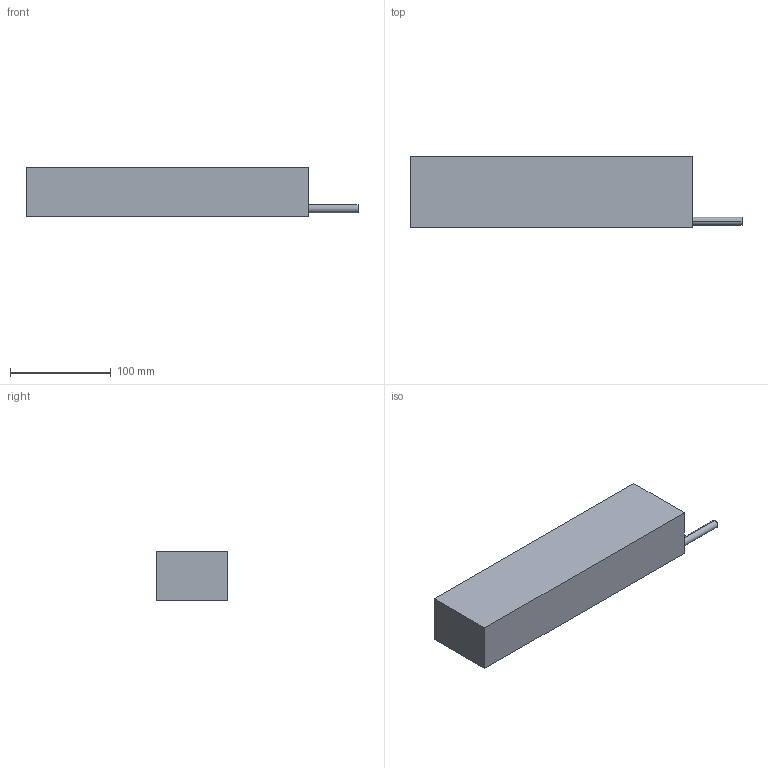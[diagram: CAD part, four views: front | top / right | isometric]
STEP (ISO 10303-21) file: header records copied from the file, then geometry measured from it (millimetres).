
FILE_DESCRIPTION (( 'STEP AP214' ), '1' );
FILE_NAME ('FLM-71-280.STEP', '2022-05-12T08:02:45', ( 'Microsoft' ), ( 'Microsoft' ), 'SwSTEP 2.0', 'SolidWorks 2016', '' );
FILE_SCHEMA (( 'AUTOMOTIVE_DESIGN' ));
Length unit declared in the file: millimetre
Products named in the file (1): FLM-71-280
Bounding box: 329.3 x 71 x 49.3 mm (x, y, z)
Volume: 981062.7 mm3; surface area: 76900.6 mm2
Topology: 1 solids, 1 shells, 117 faces, 270 edges, 138 vertices
Faces by surface type: cone 72, cylinder 38, plane 7
Entity records: 3438 total; most frequent: DIRECTION 582, CARTESIAN_POINT 490, ORIENTED_EDGE 468, EDGE_CURVE 234, AXIS2_PLACEMENT_3D 230, VERTEX_POINT 138, EDGE_LOOP 136, VECTOR 122
